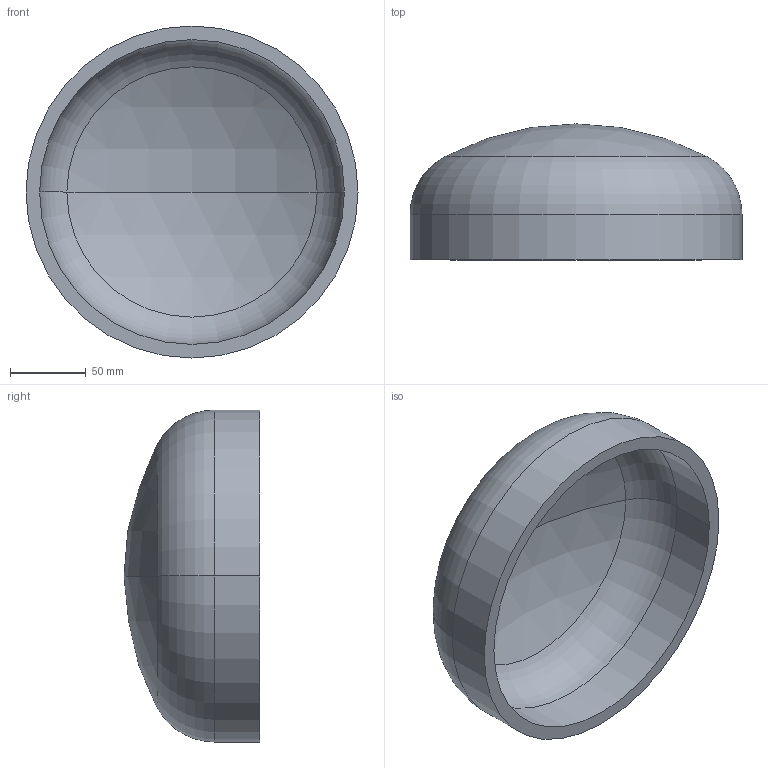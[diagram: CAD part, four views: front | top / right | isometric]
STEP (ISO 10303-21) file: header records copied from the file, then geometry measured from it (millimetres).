
FILE_DESCRIPTION (( 'STEP AP203' ), '1' );
FILE_NAME ('DIN 28013 Korbbogenform_-_Boden DIN 28013 - 219,1 x 30 - I - s=9.step', '2016-07-01T07:42:25', ( '' ), ( '' ), 'SwSTEP 2.0', 'SolidWorks 2013', '' );
FILE_SCHEMA (( 'CONFIG_CONTROL_DESIGN' ));
Length unit declared in the file: millimetre
Products named in the file (1): DIN 28013 Korbbogenform_-_Boden DIN 28013 - 219,1 x 30 - I - s=9
Bounding box: 219.1 x 89.69 x 219.1 mm (x, y, z)
Volume: 624575.8 mm3; surface area: 144904.7 mm2
Topology: 1 solids, 1 shells, 13 faces, 24 edges, 14 vertices
Faces by surface type: torus 4, cylinder 4, sphere 4, plane 1
Entity records: 407 total; most frequent: DIRECTION 72, CARTESIAN_POINT 52, ORIENTED_EDGE 48, AXIS2_PLACEMENT_3D 34, EDGE_CURVE 24, CIRCLE 20, EDGE_LOOP 14, VERTEX_POINT 14
